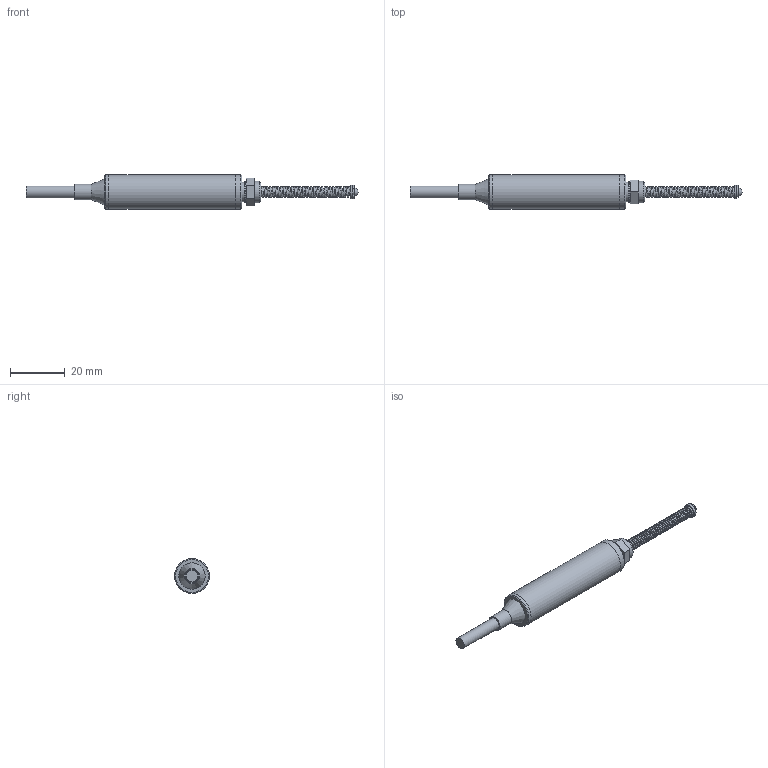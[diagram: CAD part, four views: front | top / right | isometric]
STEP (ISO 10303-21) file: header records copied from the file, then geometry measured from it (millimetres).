
FILE_DESCRIPTION(/* description */ (''),/* implementation_level */ '2;1');
FILE_NAME(/* name */ 'KPM12R2-15mm.stp',/* time_stamp */ '2022-02-18T15:45:17+08:00',/* author */ (''),/* organization */ (''),/* preprocessor_version */ 'ST-DEVELOPER v16',/* originating_system */ 'SIEMENS PLM Software NX 10.0',/* authorisation */ '');
FILE_SCHEMA (('AUTOMOTIVE_DESIGN { 1 0 10303 214 3 1 1 1 }'));
Length unit declared in the file: millimetre
Products named in the file (1): Admi1EE8BA4Bfnqc
Bounding box: 121.25 x 12.7 x 12.7 mm (x, y, z)
Volume: 4678.1 mm3; surface area: 8580.2 mm2
Topology: 11 solids, 11 shells, 142 faces, 333 edges, 224 vertices
Faces by surface type: plane 89, cylinder 42, cone 8, bspline 2, sphere 1
Full cylindrical faces by diameter (mm): 1.9 x1, 2.9 x1, 3 x1, 3.2 x1, 4.2 x1, 4.3 x3, 5 x2, 5.6 x1, 7.2 x1, 8 x2, 9.15 x1, 11 x1, 11.45 x1, 12.7 x3
Entity records: 15610 total; most frequent: CARTESIAN_POINT 12323, DIRECTION 676, ORIENTED_EDGE 584, EDGE_CURVE 292, AXIS2_PLACEMENT_3D 243, VERTEX_POINT 214, EDGE_LOOP 194, LINE 190
